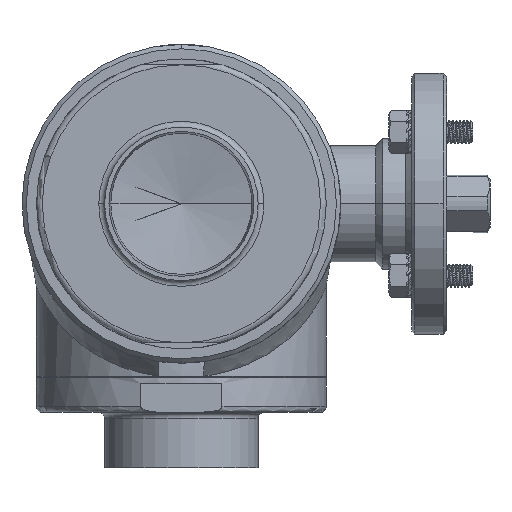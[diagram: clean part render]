
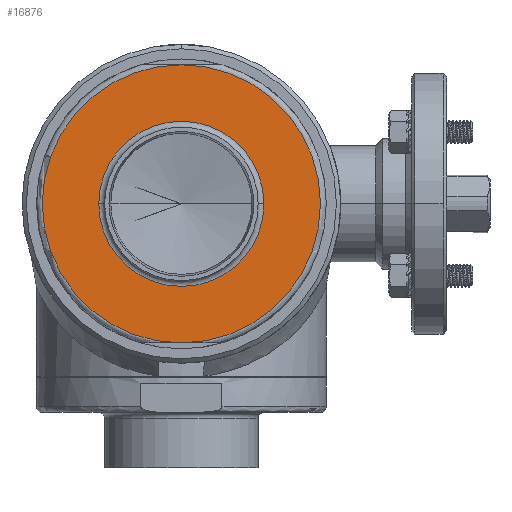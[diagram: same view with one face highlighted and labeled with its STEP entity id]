
A CAD part, front view. The second image highlights one B-rep face of the part: STEP entity #16876.
In plain terms, the highlighted planar face has unit normal (0, -1, 0).
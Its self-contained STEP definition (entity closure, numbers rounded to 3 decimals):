
#16415=CARTESIAN_POINT('',(0.,-72.,0.));
#16416=DIRECTION('',(0.,1.,0.));
#16417=DIRECTION('',(1.,0.,0.));
#16418=AXIS2_PLACEMENT_3D('',#16415,#16416,#16417);
#16435=CARTESIAN_POINT('',(0.,-72.,0.));
#16436=DIRECTION('',(0.,-1.,0.));
#16437=DIRECTION('',(1.,0.,0.));
#16438=AXIS2_PLACEMENT_3D('',#16435,#16436,#16437);
#16445=CARTESIAN_POINT('',(0.,-72.,0.));
#16446=DIRECTION('',(0.,-1.,0.));
#16447=DIRECTION('',(0.,0.,-1.));
#16448=AXIS2_PLACEMENT_3D('',#16445,#16446,#16447);
#16476=CARTESIAN_POINT('',(0.,-72.,48.));
#16538=CARTESIAN_POINT('',(0.,-72.,0.));
#16539=DIRECTION('',(0.,-1.,0.));
#16540=DIRECTION('',(0.,0.,1.));
#16541=AXIS2_PLACEMENT_3D('',#16538,#16539,#16540);
#16569=CARTESIAN_POINT('',(0.,-72.,-48.));
#16689=VERTEX_POINT('',#16476);
#16690=VERTEX_POINT('',#16569);
#16691=CARTESIAN_POINT('',(28.5,-72.,0.));
#16692=CARTESIAN_POINT('',(-28.5,-72.,0.));
#16693=VERTEX_POINT('',#16691);
#16694=VERTEX_POINT('',#16692);
#16860=CARTESIAN_POINT('',(0.,-72.,0.));
#16861=DIRECTION('',(0.,-1.,0.));
#16862=DIRECTION('',(-1.,0.,0.));
#16863=AXIS2_PLACEMENT_3D('',#16860,#16861,#16862);
#16864=PLANE('',#16863);
#16866=ORIENTED_EDGE('',*,*,#16865,.F.);
#16868=ORIENTED_EDGE('',*,*,#16867,.F.);
#16869=EDGE_LOOP('',(#16866,#16868));
#16870=FACE_OUTER_BOUND('',#16869,.F.);
#16871=ORIENTED_EDGE('',*,*,#16850,.F.);
#16873=ORIENTED_EDGE('',*,*,#16872,.T.);
#16874=EDGE_LOOP('',(#16871,#16873));
#16875=FACE_BOUND('',#16874,.F.);
#16876=ADVANCED_FACE('',(#16870,#16875),#16864,.T.);
#16419=CIRCLE('',#16418,28.5);
#16439=CIRCLE('',#16438,28.5);
#16449=CIRCLE('',#16448,48.);
#16542=CIRCLE('',#16541,48.);
#16850=EDGE_CURVE('',#16693,#16694,#16419,.T.);
#16865=EDGE_CURVE('',#16690,#16689,#16449,.T.);
#16867=EDGE_CURVE('',#16689,#16690,#16542,.T.);
#16872=EDGE_CURVE('',#16693,#16694,#16439,.T.);
